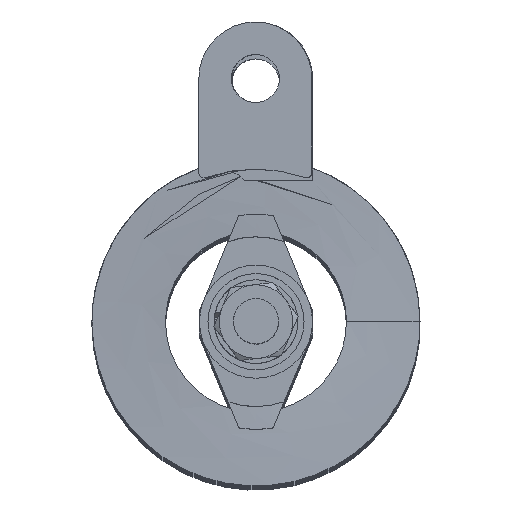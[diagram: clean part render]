
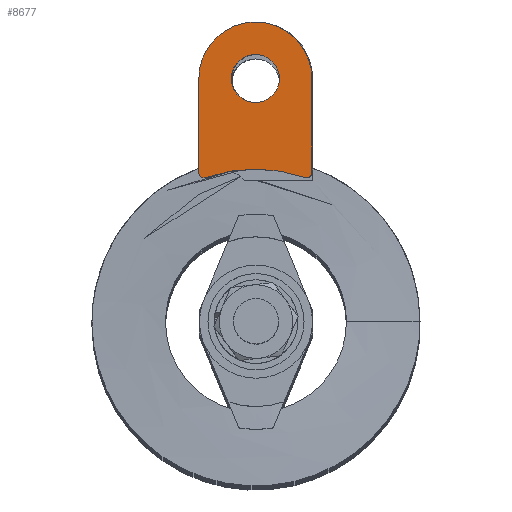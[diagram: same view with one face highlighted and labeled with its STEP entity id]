
A CAD part, top view. The second image highlights one B-rep face of the part: STEP entity #8677.
In plain terms, the highlighted planar face has unit normal (-0.036, 0, 0.999) as drawn and (0.036, -0.999, 0) by its records, which use the part's own axes.
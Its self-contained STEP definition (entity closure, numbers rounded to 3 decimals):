
#154=FACE_BOUND('',#3130,.T.);
#1468=LINE('',#27990,#1953);
#1473=LINE('',#30237,#1958);
#1953=VECTOR('',#10727,10.);
#1958=VECTOR('',#10734,10.);
#2668=FACE_OUTER_BOUND('',#3129,.T.);
#3129=EDGE_LOOP('',(#7952,#7953,#7954,#7955,#7956,#7957));
#3130=EDGE_LOOP('',(#7958));
#3206=CIRCLE('',#9342,1.);
#3209=CIRCLE('',#9347,26.);
#3210=CIRCLE('',#9349,1.);
#3211=CIRCLE('',#9351,10.);
#3212=CIRCLE('',#9353,4.25);
#4057=VERTEX_POINT('',#27721);
#4059=VERTEX_POINT('',#27765);
#4063=VERTEX_POINT('',#27797);
#4064=VERTEX_POINT('',#27817);
#4068=VERTEX_POINT('',#27850);
#4069=VERTEX_POINT('',#27859);
#4070=VERTEX_POINT('',#27863);
#5344=EDGE_CURVE('',#4057,#4059,#3206,.T.);
#5350=EDGE_CURVE('',#4059,#4063,#3209,.T.);
#5352=EDGE_CURVE('',#4063,#4064,#3210,.T.);
#5357=EDGE_CURVE('',#4069,#4068,#3211,.T.);
#5359=EDGE_CURVE('',#4070,#4070,#3212,.T.);
#5365=EDGE_CURVE('',#4064,#4069,#1468,.T.);
#5374=EDGE_CURVE('',#4057,#4068,#1473,.T.);
#7952=ORIENTED_EDGE('',*,*,#5352,.T.);
#7953=ORIENTED_EDGE('',*,*,#5365,.T.);
#7954=ORIENTED_EDGE('',*,*,#5357,.T.);
#7955=ORIENTED_EDGE('',*,*,#5374,.F.);
#7956=ORIENTED_EDGE('',*,*,#5344,.T.);
#7957=ORIENTED_EDGE('',*,*,#5350,.T.);
#7958=ORIENTED_EDGE('',*,*,#5359,.T.);
#8040=PLANE('',#9355);
#8677=ADVANCED_FACE('',(#2668,#154),#8040,.T.);
#9342=AXIS2_PLACEMENT_3D('',#27767,#10696,#10697);
#9347=AXIS2_PLACEMENT_3D('',#27799,#10707,#10708);
#9349=AXIS2_PLACEMENT_3D('',#27818,#10711,#10712);
#9351=AXIS2_PLACEMENT_3D('',#27860,#10716,#10717);
#9353=AXIS2_PLACEMENT_3D('',#27864,#10721,#10722);
#9355=AXIS2_PLACEMENT_3D('',#30236,#10732,#10733);
#10696=DIRECTION('center_axis',(0.036,-0.999,0.));
#10697=DIRECTION('ref_axis',(0.999,0.036,0.));
#10707=DIRECTION('center_axis',(-0.036,0.999,0.));
#10708=DIRECTION('ref_axis',(0.333,0.012,0.943));
#10711=DIRECTION('center_axis',(0.036,-0.999,0.));
#10712=DIRECTION('ref_axis',(0.333,0.012,0.943));
#10716=DIRECTION('center_axis',(0.036,-0.999,0.));
#10717=DIRECTION('ref_axis',(-0.999,-0.036,0.));
#10721=DIRECTION('center_axis',(-0.036,0.999,0.));
#10722=DIRECTION('ref_axis',(-0.999,-0.036,0.));
#10727=DIRECTION('',(0.,0.,-1.));
#10732=DIRECTION('center_axis',(0.036,-0.999,0.));
#10733=DIRECTION('ref_axis',(-0.999,-0.036,0.));
#10734=DIRECTION('',(0.,0.,-1.));
#27721=CARTESIAN_POINT('',(10.104,-1.259,-26.456));
#27765=CARTESIAN_POINT('',(8.771,-1.308,-25.513));
#27767=CARTESIAN_POINT('Origin',(9.104,-1.295,-26.456));
#27797=CARTESIAN_POINT('',(-8.551,-1.938,-25.513));
#27799=CARTESIAN_POINT('Origin',(0.11,-1.623,-1.));
#27817=CARTESIAN_POINT('',(-9.883,-1.987,-26.456));
#27818=CARTESIAN_POINT('Origin',(-8.884,-1.951,-26.456));
#27850=CARTESIAN_POINT('',(10.104,-1.259,-43.));
#27859=CARTESIAN_POINT('',(-9.883,-1.987,-43.));
#27860=CARTESIAN_POINT('Origin',(0.11,-1.623,-43.));
#27863=CARTESIAN_POINT('',(4.358,-1.468,-43.));
#27864=CARTESIAN_POINT('Origin',(0.11,-1.623,-43.));
#27990=CARTESIAN_POINT('',(-9.883,-1.987,-25.));
#30236=CARTESIAN_POINT('Origin',(10.104,-1.259,-25.));
#30237=CARTESIAN_POINT('',(10.104,-1.259,-25.));
